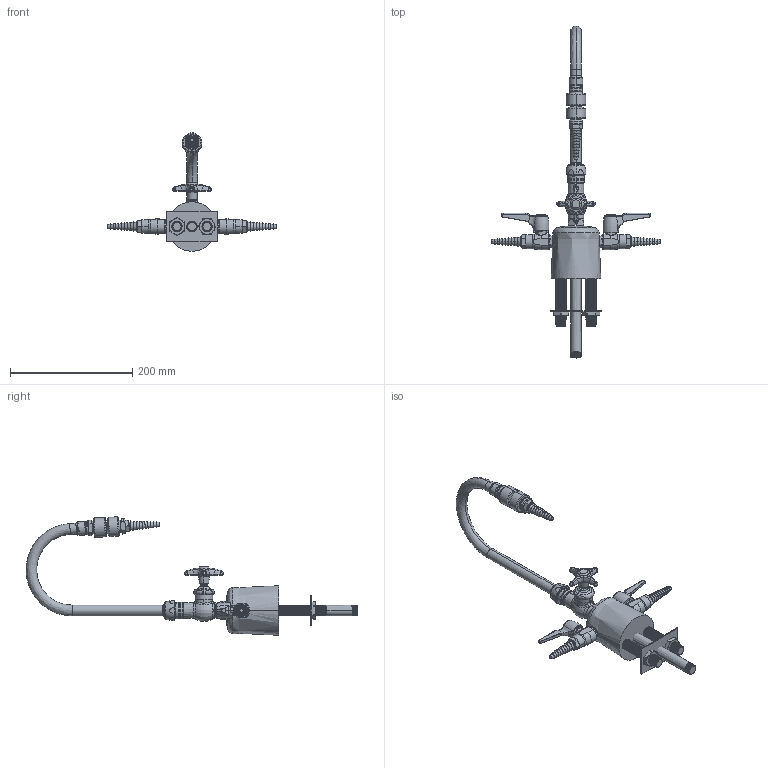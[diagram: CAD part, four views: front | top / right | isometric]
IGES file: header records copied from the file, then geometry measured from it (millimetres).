
Start section:  PTC IGES file: LCF1-CB-C1A3.igs
Global section: file name: LCF1-CB-C1A3.igs; native system: Creo Parametric by PTC Inc.; preprocessor: 2014500; author: usch_engrender; organization: Unknown; date: 20160208.113204; units: inch
Bounding box: 276.86 x 542.32 x 193.54 mm (x, y, z)
Surface area: 144840.5 mm2 (no closed solid volume)
Topology: 0 solids, 88 shells, 1108 faces, 3055 edges, 1990 vertices
Faces by surface type: revolution 672, bspline 436
